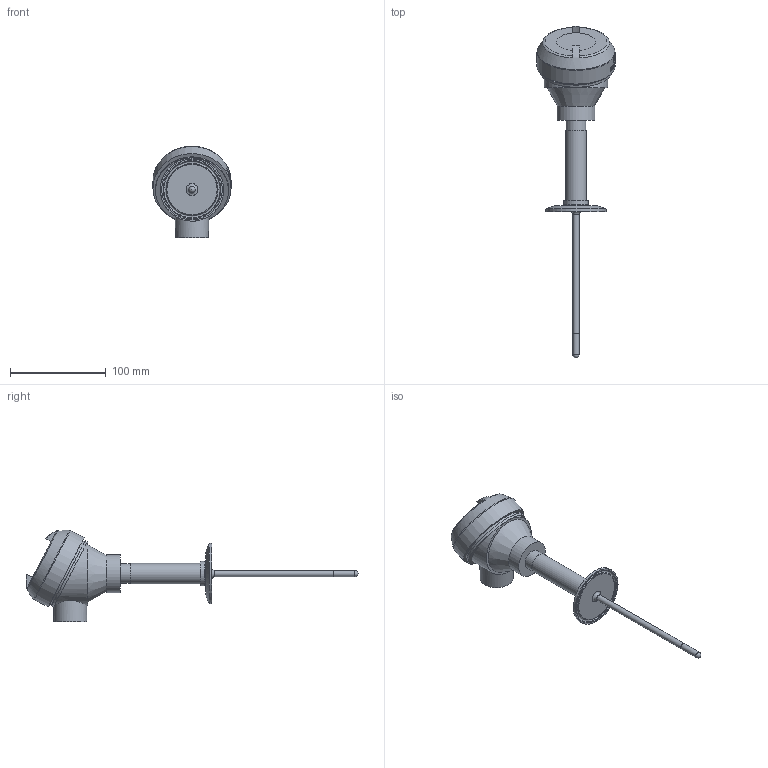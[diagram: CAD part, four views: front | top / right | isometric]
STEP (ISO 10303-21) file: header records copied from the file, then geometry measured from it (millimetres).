
FILE_DESCRIPTION(/* description */ (''),/* implementation_level */ '2;1');
FILE_NAME(/* name */ 'P:\3D Drawings\Sanitary-2in-Triclamp\Sanitary-2in-Triclamp-STP\Sanitary-2in-Triclamp-STP.stp',/* time_stamp */ '2015-11-11T13:15:20-08:00',/* author */ ('charles'),/* organization */ (''),/* preprocessor_version */ 'ST-DEVELOPER v15.2',/* originating_system */ 'Autodesk Inventor 2014',/* authorisation */ '');
FILE_SCHEMA (('AUTOMOTIVE_DESIGN { 1 0 10303 214 3 1 1 }'));
Length unit declared in the file: inch
Products named in the file (1): Sanitary-2in-Triclamp
Bounding box: 81.35 x 345.95 x 95.43 mm (x, y, z)
Volume: 314818.6 mm3; surface area: 54198.6 mm2
Topology: 1 solids, 2 shells, 300 faces, 780 edges, 519 vertices
Faces by surface type: plane 153, bspline 87, cylinder 43, torus 8, cone 8, sphere 1
Full cylindrical faces by diameter (mm): 6.02 x1, 6.35 x1, 10.998 x1, 13.741 x1, 14.986 x1, 15.291 x1, 18.644 x2, 20.647 x1, 21.082 x1, 25.4 x1, 34.544 x1, 39.554 x1, 40.64 x1, 63.193 x1, 65.923 x1, 73.66 x1, 76.2 x1, 81.345 x1
Entity records: 31913 total; most frequent: CARTESIAN_POINT 25193, ORIENTED_EDGE 1468, DIRECTION 990, EDGE_CURVE 734, VERTEX_POINT 507, EDGE_LOOP 369, AXIS2_PLACEMENT_3D 351, B_SPLINE_CURVE_WITH_KNOTS 308
